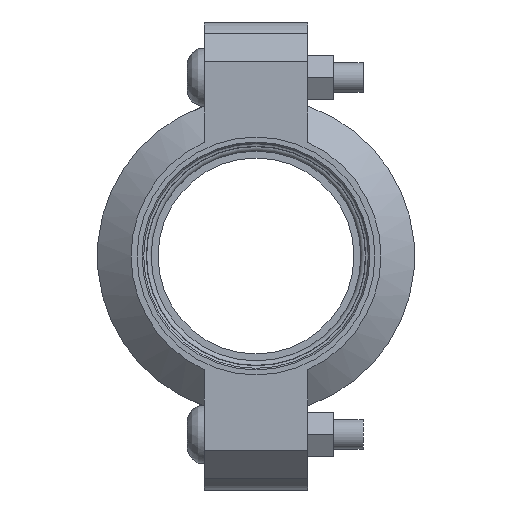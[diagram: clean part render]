
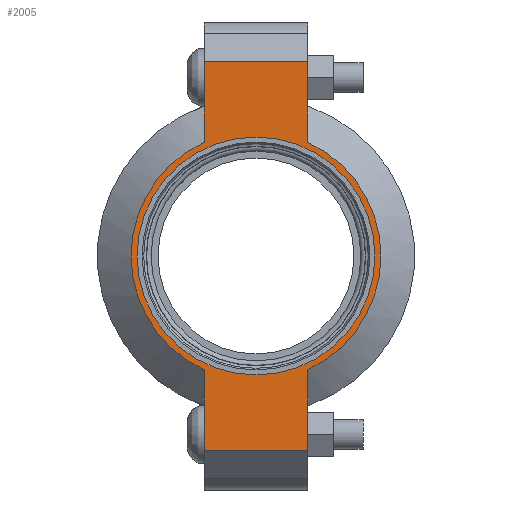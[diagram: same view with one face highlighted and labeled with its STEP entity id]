
A CAD part, left-side view. The second image highlights one B-rep face of the part: STEP entity #2005.
In plain terms, the highlighted planar face has unit normal (-1, 0, 0) as drawn and (0, 0, 1) by its records, which use the part's own axes.
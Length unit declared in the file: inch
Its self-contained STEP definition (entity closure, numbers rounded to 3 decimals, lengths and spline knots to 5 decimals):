
#176=LINE('',#3567,#275);
#189=LINE('',#3611,#288);
#194=LINE('',#3635,#293);
#201=LINE('',#3653,#300);
#208=LINE('',#3678,#307);
#209=LINE('',#3681,#308);
#275=VECTOR('',#2877,0.3937);
#288=VECTOR('',#2906,0.3937);
#293=VECTOR('',#2917,0.3937);
#300=VECTOR('',#2934,0.3937);
#307=VECTOR('',#2955,0.3937);
#308=VECTOR('',#2960,0.3937);
#360=FACE_BOUND('',#610,.T.);
#404=PLANE('',#2346);
#493=FACE_OUTER_BOUND('',#609,.T.);
#609=EDGE_LOOP('',(#1740,#1741,#1742,#1743,#1744,#1745,#1746,#1747));
#610=EDGE_LOOP('',(#1748));
#781=CIRCLE('',#2347,1.575);
#782=CIRCLE('',#2348,1.575);
#783=CIRCLE('',#2349,1.5);
#943=VERTEX_POINT('',#3562);
#944=VERTEX_POINT('',#3566);
#960=VERTEX_POINT('',#3608);
#961=VERTEX_POINT('',#3610);
#967=VERTEX_POINT('',#3630);
#968=VERTEX_POINT('',#3634);
#973=VERTEX_POINT('',#3650);
#974=VERTEX_POINT('',#3652);
#980=VERTEX_POINT('',#3683);
#1191=EDGE_CURVE('',#944,#943,#176,.T.);
#1211=EDGE_CURVE('',#961,#960,#189,.T.);
#1220=EDGE_CURVE('',#968,#967,#194,.T.);
#1229=EDGE_CURVE('',#974,#973,#201,.T.);
#1241=EDGE_CURVE('',#968,#960,#208,.T.);
#1242=EDGE_CURVE('',#967,#974,#781,.T.);
#1243=EDGE_CURVE('',#944,#973,#209,.T.);
#1244=EDGE_CURVE('',#943,#961,#782,.T.);
#1245=EDGE_CURVE('',#980,#980,#783,.T.);
#1740=ORIENTED_EDGE('',*,*,#1241,.F.);
#1741=ORIENTED_EDGE('',*,*,#1220,.T.);
#1742=ORIENTED_EDGE('',*,*,#1242,.T.);
#1743=ORIENTED_EDGE('',*,*,#1229,.T.);
#1744=ORIENTED_EDGE('',*,*,#1243,.F.);
#1745=ORIENTED_EDGE('',*,*,#1191,.T.);
#1746=ORIENTED_EDGE('',*,*,#1244,.T.);
#1747=ORIENTED_EDGE('',*,*,#1211,.T.);
#1748=ORIENTED_EDGE('',*,*,#1245,.T.);
#2005=ADVANCED_FACE('',(#493,#360),#404,.T.);
#2346=AXIS2_PLACEMENT_3D('',#3679,#2956,#2957);
#2347=AXIS2_PLACEMENT_3D('',#3680,#2958,#2959);
#2348=AXIS2_PLACEMENT_3D('',#3682,#2961,#2962);
#2349=AXIS2_PLACEMENT_3D('',#3684,#2963,#2964);
#2877=DIRECTION('',(1.,0.,0.));
#2906=DIRECTION('',(1.,0.,0.));
#2917=DIRECTION('',(-1.,0.,0.));
#2934=DIRECTION('',(-1.,0.,0.));
#2955=DIRECTION('',(0.,-1.,0.));
#2956=DIRECTION('center_axis',(0.,0.,1.));
#2957=DIRECTION('ref_axis',(-1.,0.,0.));
#2958=DIRECTION('center_axis',(0.,0.,1.));
#2959=DIRECTION('ref_axis',(1.,0.,0.));
#2960=DIRECTION('',(0.,1.,0.));
#2961=DIRECTION('center_axis',(0.,0.,1.));
#2962=DIRECTION('ref_axis',(1.,0.,0.));
#2963=DIRECTION('center_axis',(0.,0.,-1.));
#2964=DIRECTION('ref_axis',(1.,0.,0.));
#3562=CARTESIAN_POINT('',(-1.43462,-0.65,0.94));
#3566=CARTESIAN_POINT('',(-2.45,-0.65,0.94));
#3567=CARTESIAN_POINT('',(2.95,-0.65,0.94));
#3608=CARTESIAN_POINT('',(2.45,-0.65,0.94));
#3610=CARTESIAN_POINT('',(1.43462,-0.65,0.94));
#3611=CARTESIAN_POINT('',(2.95,-0.65,0.94));
#3630=CARTESIAN_POINT('',(1.43462,0.65,0.94));
#3634=CARTESIAN_POINT('',(2.45,0.65,0.94));
#3635=CARTESIAN_POINT('',(-2.95,0.65,0.94));
#3650=CARTESIAN_POINT('',(-2.45,0.65,0.94));
#3652=CARTESIAN_POINT('',(-1.43462,0.65,0.94));
#3653=CARTESIAN_POINT('',(-2.95,0.65,0.94));
#3678=CARTESIAN_POINT('',(2.45,-0.325,0.94));
#3679=CARTESIAN_POINT('Origin',(0.,0.,
0.94));
#3680=CARTESIAN_POINT('Origin',(0.,0.,0.94));
#3681=CARTESIAN_POINT('',(-2.45,0.325,0.94));
#3682=CARTESIAN_POINT('Origin',(0.,0.,0.94));
#3683=CARTESIAN_POINT('',(-1.5,0.,0.94));
#3684=CARTESIAN_POINT('Origin',(0.,0.,0.94));
